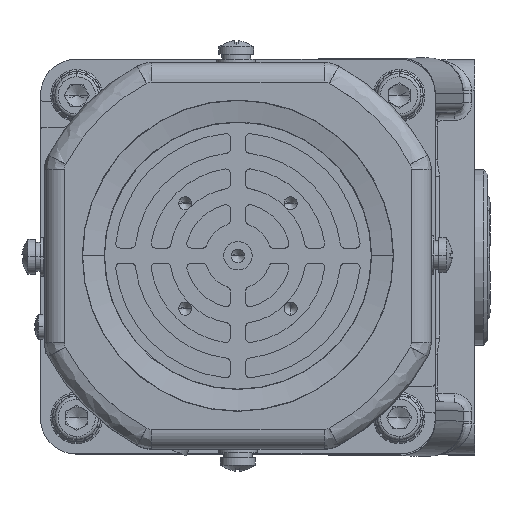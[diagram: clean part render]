
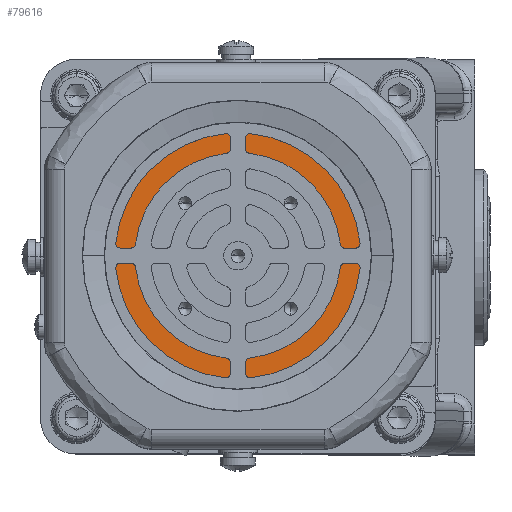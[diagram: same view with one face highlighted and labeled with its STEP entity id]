
A CAD part, top view. The second image highlights one B-rep face of the part: STEP entity #79616.
In plain terms, the highlighted planar face has unit normal (0, 0, 1) as drawn and (-1, 0, 0) by its records, which use the part's own axes.
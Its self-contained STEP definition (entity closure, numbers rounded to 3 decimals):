
#861 = FACE_OUTER_BOUND ( 'NONE', #58616, .T. ) ;
#1758 = FACE_BOUND ( 'NONE', #58100, .T. ) ;
#1832 = CARTESIAN_POINT ( 'NONE',  ( -56.743, -10.259, 144.808 ) ) ;
#2044 = FACE_BOUND ( 'NONE', #62649, .T. ) ;
#2174 = ORIENTED_EDGE ( 'NONE', *, *, #66678, .T. ) ;
#2258 = AXIS2_PLACEMENT_3D ( 'NONE', #19465, #21456, #21043 ) ;
#5184 = FACE_BOUND ( 'NONE', #64285, .T. ) ;
#5678 = DIRECTION ( 'NONE',  ( 0., 0., 1. ) ) ;
#8346 = AXIS2_PLACEMENT_3D ( 'NONE', #28321, #76812, #35344 ) ;
#8391 = DIRECTION ( 'NONE',  ( 0., 0., 1. ) ) ;
#9319 = ORIENTED_EDGE ( 'NONE', *, *, #20080, .T. ) ;
#11253 = DIRECTION ( 'NONE',  ( 1., 0., 0. ) ) ;
#13604 = ORIENTED_EDGE ( 'NONE', *, *, #73240, .T. ) ;
#14588 = CARTESIAN_POINT ( 'NONE',  ( -56.743, -10.259, 199.308 ) ) ;
#14877 = EDGE_CURVE ( 'NONE', #69187, #39963, #74049, .T. ) ;
#15570 = VERTEX_POINT ( 'NONE', #34994 ) ;
#16790 = CARTESIAN_POINT ( 'NONE',  ( -56.743, -10.259, 200.808 ) ) ;
#17361 = CARTESIAN_POINT ( 'NONE',  ( -56.743, -10.259, 202.808 ) ) ;
#19386 = ORIENTED_EDGE ( 'NONE', *, *, #84225, .T. ) ;
#19465 = CARTESIAN_POINT ( 'NONE',  ( -56.743, -10.259, 200.808 ) ) ;
#20080 = EDGE_CURVE ( 'NONE', #24910, #22220, #50239, .T. ) ;
#20432 = VERTEX_POINT ( 'NONE', #45510 ) ;
#21043 = DIRECTION ( 'NONE',  ( 0., 0., 1. ) ) ;
#21456 = DIRECTION ( 'NONE',  ( 1., 0., 0. ) ) ;
#21695 = DIRECTION ( 'NONE',  ( 1., 0., 0. ) ) ;
#22220 = VERTEX_POINT ( 'NONE', #57795 ) ;
#22684 = PLANE ( 'NONE',  #55022 ) ;
#23222 = EDGE_CURVE ( 'NONE', #39963, #69187, #68083, .T. ) ;
#23964 = DIRECTION ( 'NONE',  ( 0., 0., 1. ) ) ;
#24910 = VERTEX_POINT ( 'NONE', #14588 ) ;
#25771 = CARTESIAN_POINT ( 'NONE',  ( -56.743, -10.259, 148.308 ) ) ;
#26578 = CIRCLE ( 'NONE', #42353, 1.5 ) ;
#28199 = ORIENTED_EDGE ( 'NONE', *, *, #23222, .T. ) ;
#28315 = ORIENTED_EDGE ( 'NONE', *, *, #68673, .T. ) ;
#28321 = CARTESIAN_POINT ( 'NONE',  ( -56.743, -10.259, 173.808 ) ) ;
#33325 = DIRECTION ( 'NONE',  ( 1., 0., 0. ) ) ;
#34435 = VERTEX_POINT ( 'NONE', #25771 ) ;
#34994 = CARTESIAN_POINT ( 'NONE',  ( -56.743, -10.259, 145.308 ) ) ;
#35344 = DIRECTION ( 'NONE',  ( 0., 0., 1. ) ) ;
#36356 = CARTESIAN_POINT ( 'NONE',  ( -56.743, -10.259, 151.808 ) ) ;
#37968 = AXIS2_PLACEMENT_3D ( 'NONE', #16790, #65527, #23964 ) ;
#39963 = VERTEX_POINT ( 'NONE', #17361 ) ;
#40356 = CIRCLE ( 'NONE', #67989, 22. ) ;
#41297 = CIRCLE ( 'NONE', #59939, 1.5 ) ;
#42353 = AXIS2_PLACEMENT_3D ( 'NONE', #53317, #11253, #60296 ) ;
#43694 = CARTESIAN_POINT ( 'NONE',  ( -56.743, 11.741, 173.808 ) ) ;
#45298 = AXIS2_PLACEMENT_3D ( 'NONE', #77925, #77722, #77623 ) ;
#45510 = CARTESIAN_POINT ( 'NONE',  ( -56.743, -10.259, 195.808 ) ) ;
#50239 = CIRCLE ( 'NONE', #2258, 1.5 ) ;
#50630 = DIRECTION ( 'NONE',  ( -1., 0., 0. ) ) ;
#52621 = CIRCLE ( 'NONE', #8346, 22. ) ;
#53317 = CARTESIAN_POINT ( 'NONE',  ( -56.743, -10.259, 146.808 ) ) ;
#54999 = CIRCLE ( 'NONE', #37968, 1.5 ) ;
#55022 = AXIS2_PLACEMENT_3D ( 'NONE', #43694, #50630, #8391 ) ;
#57795 = CARTESIAN_POINT ( 'NONE',  ( -56.743, -10.259, 202.308 ) ) ;
#58100 = EDGE_LOOP ( 'NONE', ( #28315, #13604 ) ) ;
#58616 = EDGE_LOOP ( 'NONE', ( #28199, #64907 ) ) ;
#59302 = VERTEX_POINT ( 'NONE', #36356 ) ;
#59939 = AXIS2_PLACEMENT_3D ( 'NONE', #63335, #21695, #70313 ) ;
#60296 = DIRECTION ( 'NONE',  ( 0., 0., 1. ) ) ;
#61945 = EDGE_CURVE ( 'NONE', #22220, #24910, #54999, .T. ) ;
#62649 = EDGE_LOOP ( 'NONE', ( #87487, #9319 ) ) ;
#63335 = CARTESIAN_POINT ( 'NONE',  ( -56.743, -10.259, 146.808 ) ) ;
#64285 = EDGE_LOOP ( 'NONE', ( #2174, #19386 ) ) ;
#64907 = ORIENTED_EDGE ( 'NONE', *, *, #14877, .T. ) ;
#65527 = DIRECTION ( 'NONE',  ( 1., 0., 0. ) ) ;
#66678 = EDGE_CURVE ( 'NONE', #20432, #59302, #52621, .T. ) ;
#67989 = AXIS2_PLACEMENT_3D ( 'NONE', #74772, #33325, #81749 ) ;
#68083 = CIRCLE ( 'NONE', #83097, 29. ) ;
#68673 = EDGE_CURVE ( 'NONE', #34435, #15570, #26578, .T. ) ;
#69187 = VERTEX_POINT ( 'NONE', #1832 ) ;
#70313 = DIRECTION ( 'NONE',  ( 0., 0., 1. ) ) ;
#73240 = EDGE_CURVE ( 'NONE', #15570, #34435, #41297, .T. ) ;
#74049 = CIRCLE ( 'NONE', #45298, 29. ) ;
#74772 = CARTESIAN_POINT ( 'NONE',  ( -56.743, -10.259, 173.808 ) ) ;
#76812 = DIRECTION ( 'NONE',  ( 1., 0., 0. ) ) ;
#77623 = DIRECTION ( 'NONE',  ( 0., 0., 1. ) ) ;
#77722 = DIRECTION ( 'NONE',  ( -1., 0., 0. ) ) ;
#77925 = CARTESIAN_POINT ( 'NONE',  ( -56.743, -10.259, 173.808 ) ) ;
#79074 = CARTESIAN_POINT ( 'NONE',  ( -56.743, -10.259, 173.808 ) ) ;
#79616 = ADVANCED_FACE ( 'NONE', ( #1758, #5184, #2044, #861 ), #22684, .T. ) ;
#81749 = DIRECTION ( 'NONE',  ( 0., 0., 1. ) ) ;
#82787 = DIRECTION ( 'NONE',  ( -1., 0., 0. ) ) ;
#83097 = AXIS2_PLACEMENT_3D ( 'NONE', #79074, #82787, #5678 ) ;
#84225 = EDGE_CURVE ( 'NONE', #59302, #20432, #40356, .T. ) ;
#87487 = ORIENTED_EDGE ( 'NONE', *, *, #61945, .T. ) ;
